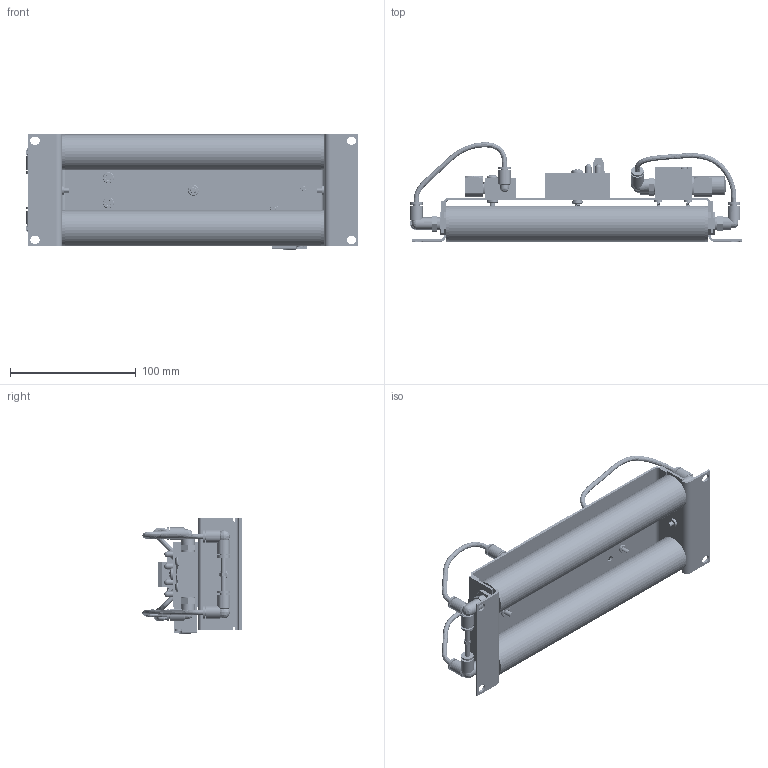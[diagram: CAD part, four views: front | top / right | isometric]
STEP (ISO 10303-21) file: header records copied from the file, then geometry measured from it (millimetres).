
FILE_DESCRIPTION (( 'STEP AP214' ), '1' );
FILE_NAME ('MDH2-XHE.STEP', '2020-09-16T22:36:46', ( '' ), ( '' ), 'SwSTEP 2.0', 'SolidWorks 2017', '' );
FILE_SCHEMA (( 'AUTOMOTIVE_DESIGN' ));
Length unit declared in the file: inch
Products named in the file (1): MDH2-XHE
Bounding box: 263.81 x 78.82 x 91.49 mm (x, y, z)
Volume: 508215.9 mm3; surface area: 265994 mm2
Topology: 63 solids, 63 shells, 6115 faces, 16219 edges, 10690 vertices
Faces by surface type: plane 3192, cylinder 2068, cone 376, bspline 376, torus 52, sphere 51
Entity records: 316856 total; most frequent: CARTESIAN_POINT 91060, ORIENTED_EDGE 32354, DIRECTION 27635, EDGE_CURVE 16177, VERTEX_POINT 10677, VECTOR 9835, LINE 9835, AXIS2_PLACEMENT_3D 8900
